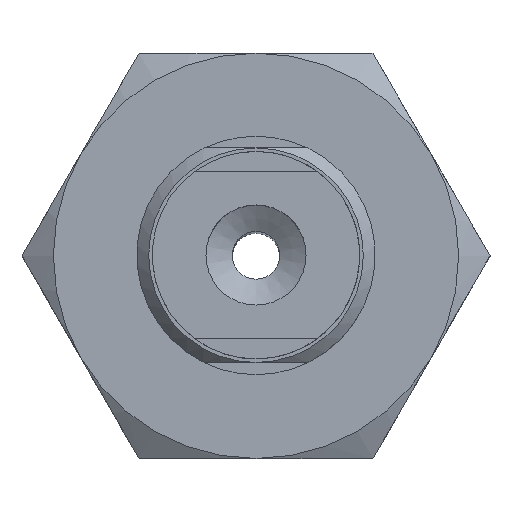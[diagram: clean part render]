
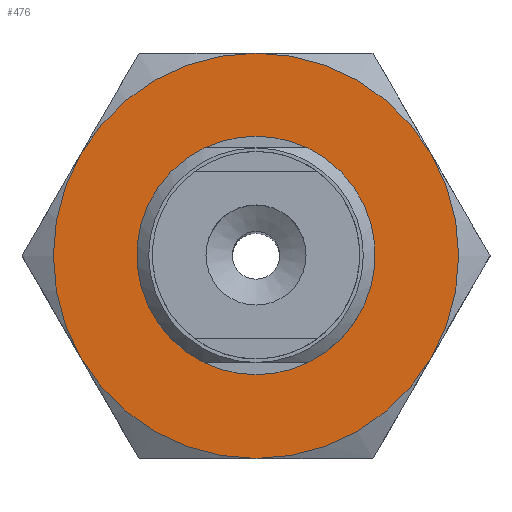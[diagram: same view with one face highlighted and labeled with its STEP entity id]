
A CAD part, top view. The second image highlights one B-rep face of the part: STEP entity #476.
In plain terms, the highlighted planar face has unit normal (0, 0, 1).
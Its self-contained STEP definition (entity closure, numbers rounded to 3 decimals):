
#476=ADVANCED_FACE('',(#619,#620),#621,.T.);
#619=FACE_BOUND('',#877,.T.);
#620=FACE_OUTER_BOUND('',#878,.T.);
#621=PLANE('',#879);
#877=EDGE_LOOP('',(#1295));
#878=EDGE_LOOP('',(#1296,#1297,#1298,#1299,#1300,#1301));
#879=AXIS2_PLACEMENT_3D('',#1302,#1303,#1304);
#1295=ORIENTED_EDGE('',*,*,#1798,.F.);
#1296=ORIENTED_EDGE('',*,*,#1799,.F.);
#1297=ORIENTED_EDGE('',*,*,#1792,.F.);
#1298=ORIENTED_EDGE('',*,*,#1768,.F.);
#1299=ORIENTED_EDGE('',*,*,#1771,.F.);
#1300=ORIENTED_EDGE('',*,*,#1800,.F.);
#1301=ORIENTED_EDGE('',*,*,#1801,.F.);
#1302=CARTESIAN_POINT('',(-9.815,-8.5,4.0));
#1303=DIRECTION('',(0.0,0.0,1.0));
#1304=DIRECTION('',(1.0,0.0,0.0));
#1768=EDGE_CURVE('',#1970,#1971,#1972,.T.);
#1771=EDGE_CURVE('',#1976,#1970,#1977,.T.);
#1792=EDGE_CURVE('',#1971,#2011,#2012,.T.);
#1798=EDGE_CURVE('',#2020,#2020,#2021,.T.);
#1799=EDGE_CURVE('',#2011,#2022,#2023,.T.);
#1800=EDGE_CURVE('',#2024,#1976,#2025,.T.);
#1801=EDGE_CURVE('',#2022,#2024,#2026,.T.);
#1970=VERTEX_POINT('',#2372);
#1971=VERTEX_POINT('',#2373);
#1972=CIRCLE('',#2374,8.5);
#1976=VERTEX_POINT('',#2386);
#1977=CIRCLE('',#2387,8.5);
#2011=VERTEX_POINT('',#2467);
#2012=CIRCLE('',#2468,8.5);
#2020=VERTEX_POINT('',#2493);
#2021=CIRCLE('',#2494,4.5);
#2022=VERTEX_POINT('',#2495);
#2023=CIRCLE('',#2496,8.5);
#2024=VERTEX_POINT('',#2497);
#2025=CIRCLE('',#2498,8.5);
#2026=CIRCLE('',#2499,8.5);
#2372=CARTESIAN_POINT('',(7.361,4.25,4.0));
#2373=CARTESIAN_POINT('',(7.361,-4.25,4.0));
#2374=AXIS2_PLACEMENT_3D('',#2800,#2801,#2802);
#2386=CARTESIAN_POINT('',(0.,8.5,4.0));
#2387=AXIS2_PLACEMENT_3D('',#2803,#2804,#2805);
#2467=CARTESIAN_POINT('',(0.,-8.5,4.0));
#2468=AXIS2_PLACEMENT_3D('',#2829,#2830,#2831);
#2493=CARTESIAN_POINT('',(0.0,-4.5,4.0));
#2494=AXIS2_PLACEMENT_3D('',#2833,#2834,#2835);
#2495=CARTESIAN_POINT('',(-7.361,-4.25,4.0));
#2496=AXIS2_PLACEMENT_3D('',#2836,#2837,#2838);
#2497=CARTESIAN_POINT('',(-7.361,4.25,4.0));
#2498=AXIS2_PLACEMENT_3D('',#2839,#2840,#2841);
#2499=AXIS2_PLACEMENT_3D('',#2842,#2843,#2844);
#2800=CARTESIAN_POINT('',(0.,0.,4.0));
#2801=DIRECTION('',(0.,0.,-1.0));
#2802=DIRECTION('',(0.866,0.5,0.));
#2803=CARTESIAN_POINT('',(0.,0.,4.0));
#2804=DIRECTION('',(0.,0.,-1.0));
#2805=DIRECTION('',(0.866,0.5,0.));
#2829=CARTESIAN_POINT('',(0.,0.,4.0));
#2830=DIRECTION('',(0.,0.,-1.0));
#2831=DIRECTION('',(0.866,0.5,0.));
#2833=CARTESIAN_POINT('',(0.0,0.0,4.0));
#2834=DIRECTION('',(0.0,0.,1.0));
#2835=DIRECTION('',(0.0,-1.0,0.));
#2836=CARTESIAN_POINT('',(0.,0.,4.0));
#2837=DIRECTION('',(0.,0.,-1.0));
#2838=DIRECTION('',(0.866,0.5,0.));
#2839=CARTESIAN_POINT('',(0.,0.,4.0));
#2840=DIRECTION('',(0.,0.,-1.0));
#2841=DIRECTION('',(0.866,0.5,0.));
#2842=CARTESIAN_POINT('',(0.,0.,4.0));
#2843=DIRECTION('',(0.,0.,-1.0));
#2844=DIRECTION('',(0.866,0.5,0.));
